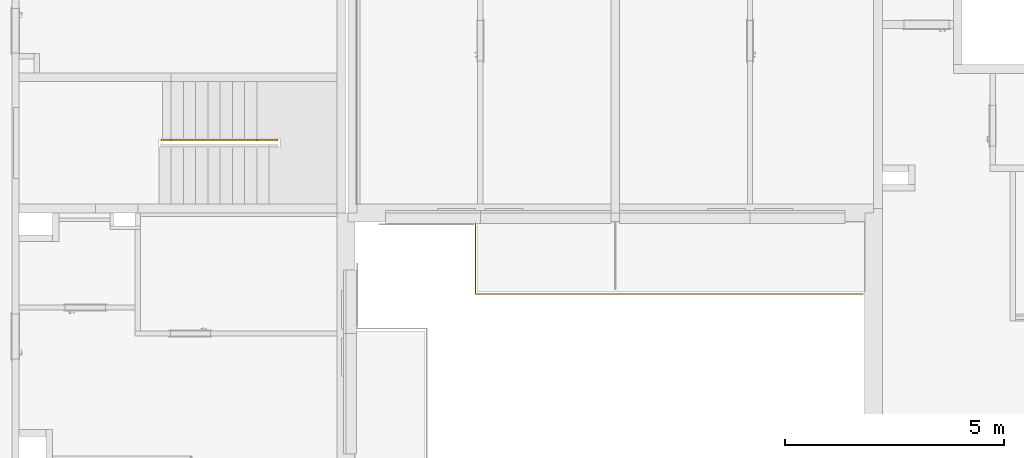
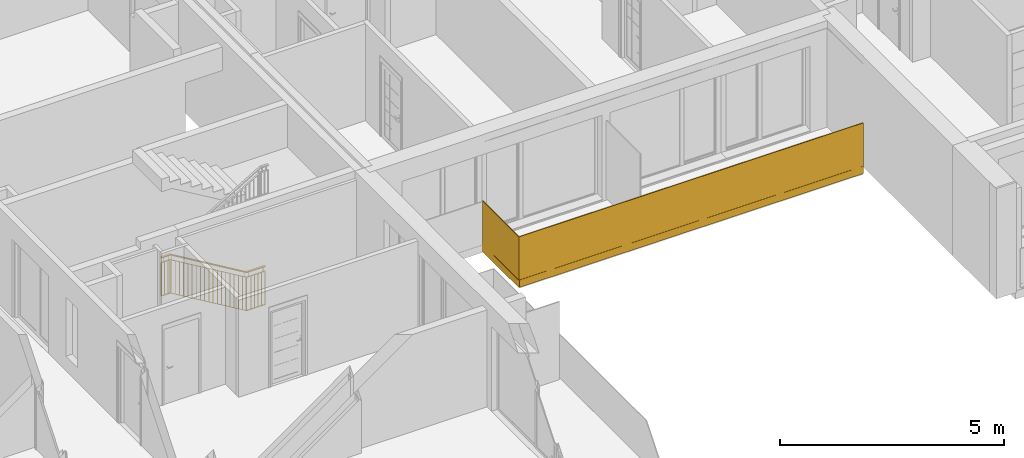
# One storey, part 5 of 66: 2 railings.
"""IFC2X3 building model written with IfcOpenShell, lengths in millimetres."""

from ifc_helpers import new_model, entity, si_unit, converted_unit, derived_unit, money_unit, direction, frame, origin_with_axes, place, context, subcontext, project, spatial, faceted_brep, material, material_list, type_object, element, save


model = new_model("IFC2X3")

# Units and contexts
model_context = context("Model", 3, precision=0.01, world=origin_with_axes(), true_north=direction((0.34421633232, 0.938890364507)))
body_context = subcontext(model_context, "Body", "Model", "MODEL_VIEW")
ifc_project = project(units=[si_unit("LENGTHUNIT", "METRE", prefix="MILLI"), si_unit("AREAUNIT", "SQUARE_METRE"), si_unit("VOLUMEUNIT", "CUBIC_METRE"), converted_unit("PLANEANGLEUNIT", "DEGREE", entity("IfcPlaneAngleMeasure", 0.0174532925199), si_unit("PLANEANGLEUNIT", "RADIAN"), dimensions=[0, 0, 0, 0, 0, 0, 0]), si_unit("SOLIDANGLEUNIT", "STERADIAN"), money_unit("USD"), converted_unit("TIMEUNIT", "Year", entity("IfcTimeMeasure", 31556926.0), si_unit("TIMEUNIT", "SECOND"), dimensions=[0, 0, 1, 0, 0, 0, 0]), si_unit("MASSUNIT", "GRAM", prefix="KILO"), si_unit("THERMODYNAMICTEMPERATUREUNIT", "DEGREE_CELSIUS"), si_unit("LUMINOUSINTENSITYUNIT", "LUMEN"), si_unit("ENERGYUNIT", "JOULE", prefix="MEGA"), derived_unit("THERMALCONDUCTANCEUNIT", [(si_unit("POWERUNIT", "WATT"), 1), (si_unit("LENGTHUNIT", "METRE"), -1), (si_unit("THERMODYNAMICTEMPERATUREUNIT", "KELVIN"), -1)]), derived_unit("SPECIFICHEATCAPACITYUNIT", [(si_unit("ENERGYUNIT", "JOULE"), 1), (si_unit("MASSUNIT", "GRAM", prefix="KILO"), -1), (si_unit("THERMODYNAMICTEMPERATUREUNIT", "KELVIN"), -1)]), derived_unit("MASSDENSITYUNIT", [(si_unit("MASSUNIT", "GRAM", prefix="KILO"), 1), (si_unit("VOLUMEUNIT", "CUBIC_METRE"), -1)])], contexts=[model_context])

# Site, building, storey
site_placement = place(None, origin_with_axes())
site = spatial("IfcSite", under=ifc_project, at=site_placement, Name="USTRONIE MORSKIE", CompositionType="ELEMENT")
building_placement = place(site_placement, origin_with_axes())
building = spatial("IfcBuilding", under=site, at=building_placement, Name="Budynek", CompositionType="ELEMENT")
storey_placement = place(building_placement, frame((0.0, 0.0, 10000.0), z_axis=(0.0, 0.0, 1.0), x_axis=(1.0, 0.0, 0.0)))
storey = spatial("IfcBuildingStorey", under=building, at=storey_placement, Name="PIĘTRO 3", CompositionType="ELEMENT", Elevation=10000.0)

# Railings
ifc_material_1 = material(Name="Szkło struktualne")
ifc_material_2 = material(Name="Profile aluminiowe")
ifc_material_list_1 = material_list([ifc_material_1, ifc_material_2, ifc_material_1, ifc_material_2])
railing_type = type_object("IfcRailingType", Name="Typ balustrady", PredefinedType="NOTDEFINED")
railing_1_placement = place(storey_placement, frame((379016.201289, 725001.198359, 0.0), z_axis=(0.0, 0.0, 1.0), x_axis=(1.0, 0.0, 0.0)))
element("IfcRailing", 1, at=railing_1_placement, inside=storey, type_object=railing_type, material=ifc_material_list_1, Name="BL1", PredefinedType="NOTDEFINED", context=body_context, shape_type="Brep", body=[
    faceted_brep([(-29.9999996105, -59.9999997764, -300.00000039), (-29.9999996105, -59.9999997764, 1069.99999972), (-8898.26101931, -59.9999997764, 1069.99999972), (-8898.26101931, -59.9999997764, -300.00000039), (-29.9999996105, -40.0000002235, 1069.99999972), (-29.9999996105, -40.0000002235, -300.00000039), (-8878.26101976, -40.0000002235, 1069.99999972), (-8878.26101976, -40.0000002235, -300.00000039)], [[[0, 1, 2, 3]], [[4, 1, 0, 5]], [[2, 1, 4, 6]], [[3, 2, 6, 7]], [[5, 0, 3, 7]], [[6, 4, 5, 7]]]),
    faceted_brep([(-8888.26101984, -35.0, -105.0), (-30.0, -35.0, -105.0), (-30.0, -35.0, -305.0), (-8888.26101984, -35.0, -305.0), (-8888.26101984, -40.0, -105.0), (-30.0, -40.0, -105.0), (-30.0, -40.0, -300.0), (-30.0, -59.9999999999, -300.0), (-30.0, -59.9999999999, -105.0), (-30.0, -64.9999999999, -105.0), (-30.0, -64.9999999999, -305.0), (-8888.26101984, -64.9999999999, -305.0), (-8888.26101984, -64.9999999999, -105.0), (-8888.26101984, -59.9999999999, -105.0), (-8888.26101984, -59.9999999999, -300.0), (-8888.26101984, -40.0, -300.0)], [[[0, 1, 2, 3]], [[1, 0, 4, 5]], [[6, 7, 8, 9, 10, 2, 1, 5]], [[10, 11, 3, 2]], [[11, 12, 13, 14, 15, 4, 0, 3]], [[15, 6, 5, 4]], [[7, 6, 15, 14]], [[8, 7, 14, 13]], [[9, 8, 13, 12]], [[11, 10, 9, 12]]]),
    faceted_brep([(-8898.26101961, -60.0000001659, -300.00000039), (-8898.26101961, -60.0000001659, 1069.99999972), (-8898.26101961, 1570.00067773, 1069.99999972), (-8898.26101961, 1570.00067773, -300.00000039), (-8878.26102006, -40.000000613, 1069.99999972), (-8878.26102006, -40.000000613, -300.00000039), (-8878.26102006, 1570.00067773, 1069.99999972), (-8878.26102006, 1570.00067773, -300.00000039)], [[[0, 1, 2, 3]], [[4, 1, 0, 5]], [[2, 1, 4, 6]], [[3, 2, 6, 7]], [[5, 0, 3, 7]], [[6, 4, 5, 7]]]),
    faceted_brep([(-8873.26101984, 1570.00067759, -105.0), (-8873.26101984, -50.0, -105.0), (-8873.26101984, -50.0, -305.0), (-8873.26101984, 1570.00067759, -305.0), (-8878.26101984, 1570.00067759, -105.0), (-8878.26101984, -50.0, -105.0), (-8878.26101984, -50.0, -300.0), (-8898.26101984, -50.0, -300.0), (-8898.26101984, -50.0, -105.0), (-8903.26101984, -50.0, -105.0), (-8903.26101984, -50.0, -305.0), (-8903.26101984, 1570.00067759, -305.0), (-8903.26101984, 1570.00067759, -105.0), (-8898.26101984, 1570.00067759, -105.0), (-8898.26101984, 1570.00067759, -300.0), (-8878.26101984, 1570.00067759, -300.0)], [[[0, 1, 2, 3]], [[1, 0, 4, 5]], [[6, 7, 8, 9, 10, 2, 1, 5]], [[10, 11, 3, 2]], [[11, 12, 13, 14, 15, 4, 0, 3]], [[15, 6, 5, 4]], [[7, 6, 15, 14]], [[8, 7, 14, 13]], [[9, 8, 13, 12]], [[11, 10, 9, 12]]]),
])
ifc_material_3 = material(Name="Stal konstrukcyjna")
ifc_material_4 = material(Name="Stal nierdzewna")
ifc_material_list_2 = material_list([ifc_material_3, ifc_material_3, ifc_material_3, ifc_material_3, ifc_material_4, ifc_material_4, ifc_material_4, ifc_material_3, ifc_material_3, ifc_material_4, ifc_material_4, ifc_material_4, ifc_material_3, ifc_material_3, ifc_material_3, ifc_material_3, ifc_material_3, ifc_material_3, ifc_material_3, ifc_material_3, ifc_material_3, ifc_material_3, ifc_material_3, ifc_material_3, ifc_material_3, ifc_material_3, ifc_material_3, ifc_material_3, ifc_material_3, ifc_material_3, ifc_material_4, ifc_material_4, ifc_material_4, ifc_material_3, ifc_material_3, ifc_material_3, ifc_material_3, ifc_material_3])
railing_2_placement = place(storey_placement, frame((362896.181789, 728501.199036, -1167.0), z_axis=(0.0, 0.0, 1.0), x_axis=(1.0, 0.0, 0.0)))
element("IfcRailing", 2, at=railing_2_placement, inside=storey, type_object=railing_type, material=ifc_material_list_2, Name="BL1", PredefinedType="NOTDEFINED", context=body_context, shape_type="Brep", body=[
    faceted_brep([(59.9999968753, -45.0000006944, 1016.66666667), (59.9999982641, -25.0000006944, 1016.66666667), (59.9999982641, -25.0000006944, 1916.66666667), (59.9999968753, -45.0000006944, 1916.66666667), (39.9999968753, -44.9999993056, 1016.66666667), (39.9999982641, -24.9999993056, 1016.66666667), (54.9999972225, -40.0000003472, 1016.66666667), (54.9999979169, -30.0000003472, 1016.66666667), (44.9999979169, -29.9999996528, 1016.66666667), (44.9999972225, -39.9999996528, 1016.66666667), (39.9999982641, -24.9999993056, 1916.66666667), (39.9999968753, -44.9999993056, 1916.66666667), (54.9999972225, -40.0000003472, 1916.66666667), (44.9999972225, -39.9999996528, 1916.66666667), (44.9999979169, -29.9999996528, 1916.66666667), (54.9999979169, -30.0000003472, 1916.66666667)], [[[0, 1, 2, 3]], [[0, 4, 5, 1], [6, 7, 8, 9]], [[1, 5, 10, 2]], [[3, 2, 10, 11], [12, 13, 14, 15]], [[4, 0, 3, 11]], [[5, 4, 11, 10]], [[7, 6, 12, 15]], [[8, 7, 15, 14]], [[9, 8, 14, 13]], [[6, 9, 13, 12]]]),
    faceted_brep([(291.739128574, -45.000016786, 1013.91570779), (291.739129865, -25.0000167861, 1013.91570743), (291.739129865, -25.0000167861, 1913.91570743), (291.739128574, -45.000016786, 1913.91570779), (271.739128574, -45.0000153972, 1019.4176259), (271.739129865, -25.0000153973, 1019.41762554), (286.739128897, -40.0000164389, 1015.29118723), (286.739129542, -30.0000164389, 1015.29118705), (276.739129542, -30.0000157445, 1018.04214611), (276.739128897, -40.0000157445, 1018.04214628), (271.739129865, -25.0000153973, 1919.41762554), (271.739128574, -45.0000153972, 1919.4176259), (286.739128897, -40.0000164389, 1915.29118723), (276.739128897, -40.0000157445, 1918.04214628), (276.739129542, -30.0000157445, 1918.04214611), (286.739129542, -30.0000164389, 1915.29118705)], [[[0, 1, 2, 3]], [[0, 4, 5, 1], [6, 7, 8, 9]], [[1, 5, 10, 2]], [[3, 2, 10, 11], [12, 13, 14, 15]], [[4, 0, 3, 11]], [[5, 4, 11, 10]], [[7, 6, 12, 15]], [[8, 7, 15, 14]], [[9, 8, 14, 13]], [[6, 9, 13, 12]]]),
    faceted_brep([(2251.73913048, -45.0000160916, -152.750958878), (2251.73913039, -25.0000160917, -152.750959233), (2251.73913039, -25.0000160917, 747.249040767), (2251.73913048, -45.0000160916, 747.249041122), (2231.73913048, -45.0000160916, -147.249040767), (2231.73913039, -25.0000160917, -147.249041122), (2246.73913046, -40.0000160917, -151.375479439), (2246.73913041, -30.0000160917, -151.375479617), (2236.73913041, -30.0000160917, -148.624520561), (2236.73913046, -40.0000160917, -148.624520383), (2231.73913039, -25.0000160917, 752.750958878), (2231.73913048, -45.0000160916, 752.750959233), (2246.73913046, -40.0000160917, 748.624520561), (2236.73913046, -40.0000160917, 751.375479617), (2236.73913041, -30.0000160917, 751.375479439), (2246.73913041, -30.0000160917, 748.624520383)], [[[0, 1, 2, 3]], [[0, 4, 5, 1], [6, 7, 8, 9]], [[1, 5, 10, 2]], [[3, 2, 10, 11], [12, 13, 14, 15]], [[4, 0, 3, 11]], [[5, 4, 11, 10]], [[7, 6, 12, 15]], [[8, 7, 15, 14]], [[9, 8, 14, 13]], [[6, 9, 13, 12]]]),
    faceted_brep([(2726.73913043, -55.0000160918, -150.0), (2726.73913043, -15.0000160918, -150.0), (2726.73913043, -15.0000160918, 750.0), (2726.73913043, -55.0000160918, 750.0), (2716.73913043, -55.0000160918, -150.0), (2716.73913043, -15.0000160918, -150.0), (2722.23913043, -50.5000160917, -150.0), (2722.23913043, -19.5000160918, -150.0), (2721.23913043, -19.5000160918, -150.0), (2721.23913043, -50.5000160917, -150.0), (2716.73913043, -15.0000160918, 750.0), (2716.73913043, -55.0000160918, 750.0), (2722.23913043, -50.5000160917, 750.0), (2721.23913043, -50.5000160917, 750.0), (2721.23913043, -19.5000160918, 750.0), (2722.23913043, -19.5000160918, 750.0)], [[[0, 1, 2, 3]], [[0, 4, 5, 1], [6, 7, 8, 9]], [[1, 5, 10, 2]], [[3, 2, 10, 11], [12, 13, 14, 15]], [[4, 0, 3, 11]], [[5, 4, 11, 10]], [[7, 6, 12, 15]], [[8, 7, 15, 14]], [[9, 8, 14, 13]], [[6, 9, 13, 12]]]),
    faceted_brep([(49.9999958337, -59.9999999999, 2066.66666667), (49.9999958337, -59.9999999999, 2041.66666667), (274.861729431, -60.0000158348, 2041.66666667), (281.739127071, -60.0000160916, 2066.66666667), (49.9999993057, -9.99999999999, 2066.66666667), (49.9999993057, -9.99999999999, 2041.66666667), (49.9999982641, -25.0, 2041.66666667), (49.9999982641, -25.0, 2046.66666667), (49.9999968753, -45.0, 2046.66666667), (49.9999968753, -45.0, 2041.66666667), (274.861729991, -45.0000158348, 2041.66666667), (276.237209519, -45.0000158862, 2046.66666667), (276.237210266, -25.0000158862, 2046.66666667), (274.861730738, -25.0000158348, 2041.66666667), (274.861731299, -10.0000158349, 2041.66666667), (281.739128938, -10.0000160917, 2066.66666667)], [[[0, 1, 2, 3]], [[0, 4, 5, 6, 7, 8, 9, 1]], [[1, 9, 10, 2]], [[3, 2, 10, 11, 12, 13, 14, 15]], [[4, 0, 3, 15]], [[5, 4, 15, 14]], [[6, 5, 14, 13]], [[7, 6, 13, 12]], [[8, 7, 12, 11]], [[9, 8, 11, 10]]]),
    faceted_brep([(49.9999968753, -45.0, 2041.66666667), (49.9999982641, -25.0, 2041.66666667), (274.861730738, -25.0000158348, 2041.66666667), (274.861729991, -45.0000158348, 2041.66666667), (49.9999968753, -45.0, 2046.66666667), (49.9999982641, -25.0, 2046.66666667), (276.237210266, -25.0000158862, 2046.66666667), (276.237209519, -45.0000158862, 2046.66666667)], [[[0, 1, 2, 3]], [[0, 4, 5, 1]], [[1, 5, 6, 2]], [[3, 2, 6, 7]], [[4, 0, 3, 7]], [[5, 4, 7, 6]]]),
    faceted_brep([(102.499996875, -45.0000036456, 1921.66666667), (102.499998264, -25.0000036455, 1921.66666667), (102.499998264, -25.0000036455, 2041.66666667), (102.499996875, -45.0000036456, 2041.66666667), (97.4999968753, -45.0000032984, 1921.66666667), (97.4999982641, -25.0000032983, 1921.66666667), (97.4999982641, -25.0000032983, 2041.66666667), (97.4999968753, -45.0000032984, 2041.66666667)], [[[0, 1, 2, 3]], [[0, 4, 5, 1]], [[1, 5, 6, 2]], [[3, 2, 6, 7]], [[4, 0, 3, 7]], [[5, 4, 7, 6]]]),
    faceted_brep([(234.23912731, -45.0000127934, 1921.66666667), (234.239128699, -25.0000127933, 1921.66666667), (234.239128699, -25.0000127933, 2041.66666667), (234.23912731, -45.0000127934, 2041.66666667), (229.23912731, -45.0000124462, 1921.66666667), (229.239128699, -25.0000124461, 1921.66666667), (229.239128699, -25.0000124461, 2041.66666667), (229.23912731, -45.0000124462, 2041.66666667)], [[[0, 1, 2, 3]], [[0, 4, 5, 1]], [[1, 5, 6, 2]], [[3, 2, 6, 7]], [[4, 0, 3, 7]], [[5, 4, 7, 6]]]),
    faceted_brep([(49.9999961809, -54.9999999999, 1916.66666667), (49.9999961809, -54.9999999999, 1911.66666667), (280.36364773, -55.0000160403, 1911.66666667), (281.739127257, -55.0000160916, 1916.66666667), (49.9999989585, -15.0, 1916.66666667), (49.9999989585, -15.0, 1911.66666667), (280.363649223, -15.0000160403, 1911.66666667), (281.739128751, -15.0000160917, 1916.66666667)], [[[0, 1, 2, 3]], [[0, 4, 5, 1]], [[1, 5, 6, 2]], [[3, 2, 6, 7]], [[4, 0, 3, 7]], [[5, 4, 7, 6]]]),
    faceted_brep([(49.9999961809, -54.9999999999, 1009.16666667), (49.9999961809, -54.9999999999, 1004.16666667), (281.051387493, -55.0000160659, 1004.16666667), (282.426867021, -55.0000161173, 1009.16666667), (49.9999989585, -15.0, 1009.16666667), (49.9999989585, -15.0, 1004.16666667), (281.051388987, -15.000016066, 1004.16666667), (282.426868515, -15.0000161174, 1009.16666667)], [[[0, 1, 2, 3]], [[0, 4, 5, 1]], [[1, 5, 6, 2]], [[3, 2, 6, 7]], [[4, 0, 3, 7]], [[5, 4, 7, 6]]]),
    faceted_brep([(145.217388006, -47.5000066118, 1016.66666667), (145.217389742, -22.5000066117, 1016.66666667), (145.217389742, -22.5000066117, 1906.66666667), (145.217388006, -47.5000066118, 1906.66666667), (135.217388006, -47.5000059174, 1016.66666667), (135.217389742, -22.5000059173, 1016.66666667), (135.217389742, -22.5000059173, 1906.66666667), (135.217388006, -47.5000059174, 1906.66666667)], [[[0, 1, 2, 3]], [[0, 4, 5, 1]], [[1, 5, 6, 2]], [[3, 2, 6, 7]], [[4, 0, 3, 7]], [[5, 4, 7, 6]]]),
    faceted_brep([(235.43477931, -47.5000128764, 1016.66666667), (235.434781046, -22.5000128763, 1016.66666667), (235.434781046, -22.5000128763, 1906.66666667), (235.43477931, -47.5000128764, 1906.66666667), (225.43477931, -47.500012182, 1016.66666667), (225.434781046, -22.5000121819, 1016.66666667), (225.434781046, -22.5000121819, 1906.66666667), (225.43477931, -47.500012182, 1906.66666667)], [[[0, 1, 2, 3]], [[0, 4, 5, 1]], [[1, 5, 6, 2]], [[3, 2, 6, 7]], [[4, 0, 3, 7]], [[5, 4, 7, 6]]]),
    faceted_brep([(281.739129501, -60.0000160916, 2066.66666667), (274.861731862, -60.0000158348, 2041.66666667), (2234.8617328, -60.0000160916, 875.0), (2241.73913043, -60.0000160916, 900.0), (281.739131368, -10.0000160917, 2066.66666667), (274.861733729, -10.0000158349, 2041.66666667), (274.861733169, -25.0000158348, 2041.66666667), (276.237212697, -25.0000158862, 2046.66666667), (276.23721195, -45.0000158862, 2046.66666667), (274.861732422, -45.0000158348, 2041.66666667), (2234.8617328, -45.0000160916, 875.0), (2236.23721232, -45.0000160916, 880.0), (2236.23721232, -25.0000160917, 880.0), (2234.8617328, -25.0000160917, 875.0), (2234.8617328, -10.0000160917, 875.0), (2241.73913043, -10.0000160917, 900.0)], [[[0, 1, 2, 3]], [[0, 4, 5, 6, 7, 8, 9, 1]], [[1, 9, 10, 2]], [[3, 2, 10, 11, 12, 13, 14, 15]], [[4, 0, 3]], [[5, 4, 15, 14]], [[6, 5, 14, 13]], [[7, 6, 13, 12]], [[8, 7, 12, 11]], [[9, 8, 11, 10]], [[4, 3, 15]]]),
    faceted_brep([(274.861732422, -45.0000158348, 2041.66666667), (274.861733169, -25.0000158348, 2041.66666667), (2234.8617328, -25.0000160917, 875.0), (2234.8617328, -45.0000160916, 875.0), (276.23721195, -45.0000158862, 2046.66666667), (276.237212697, -25.0000158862, 2046.66666667), (2236.23721232, -25.0000160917, 880.0), (2236.23721232, -45.0000160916, 880.0)], [[[0, 1, 2, 3]], [[0, 4, 5, 1]], [[1, 5, 6, 2]], [[3, 2, 6, 7]], [[4, 0, 3, 7]], [[5, 4, 7, 6]]]),
    faceted_brep([(327.203774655, -45.0000160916, 1891.99878461), (327.203774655, -25.0000160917, 1891.99878461), (327.203774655, -25.0000160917, 2011.99878461), (327.203774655, -45.0000160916, 2011.99878461), (322.203774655, -45.0000160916, 1891.99878461), (322.203774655, -25.0000160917, 1891.99878461), (322.203774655, -25.0000160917, 2013.48687985), (324.703774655, -25.0000160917, 2013.48687985), (324.703774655, -45.0000160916, 2013.48687985), (322.203774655, -45.0000160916, 2013.48687985)], [[[0, 1, 2, 3]], [[0, 4, 5, 1]], [[1, 5, 6, 7, 2]], [[7, 8, 3, 2]], [[4, 0, 3, 8, 9]], [[5, 4, 9, 6]], [[7, 6, 9, 8]]]),
    faceted_brep([(2201.27448621, -45.0000160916, 776.480503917), (2201.27448621, -25.0000160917, 776.480503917), (2201.27448621, -25.0000160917, 896.480503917), (2201.27448621, -45.0000160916, 896.480503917), (2196.27448621, -45.0000160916, 776.480503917), (2196.27448621, -25.0000160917, 776.480503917), (2196.27448621, -25.0000160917, 897.968599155), (2198.77448621, -25.0000160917, 897.968599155), (2198.77448621, -45.0000160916, 897.968599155), (2196.27448621, -45.0000160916, 897.968599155)], [[[0, 1, 2, 3]], [[0, 4, 5, 1]], [[1, 5, 6, 7, 2]], [[7, 8, 3, 2]], [[4, 0, 3, 8, 9]], [[5, 4, 9, 6]], [[7, 6, 9, 8]]]),
    faceted_brep([(281.739129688, -55.0000160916, 1916.66666667), (280.36365016, -55.0000160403, 1911.66666667), (2240.36365091, -55.0000160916, 745.0), (2241.73913043, -55.0000160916, 750.0), (281.739131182, -15.0000160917, 1916.66666667), (280.363651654, -15.0000160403, 1911.66666667), (2240.36365091, -15.0000160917, 745.0), (2241.73913043, -15.0000160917, 750.0)], [[[0, 1, 2, 3]], [[0, 4, 5, 1]], [[1, 5, 6, 2]], [[3, 2, 6, 7]], [[4, 0, 3, 7]], [[5, 4, 7, 6]]]),
    faceted_brep([(282.426869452, -55.0000161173, 1009.16666667), (281.051389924, -55.0000160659, 1004.16666667), (2241.05139067, -55.0000160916, -162.5), (2242.4268702, -55.0000160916, -157.5), (282.426870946, -15.0000161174, 1009.16666667), (281.051391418, -15.000016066, 1004.16666667), (2241.05139067, -15.0000160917, -162.5), (2242.4268702, -15.0000160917, -157.5)], [[[0, 1, 2, 3]], [[0, 4, 5, 1]], [[1, 5, 6, 2]], [[3, 2, 6, 7]], [[4, 0, 3, 7]], [[5, 4, 7, 6]]]),
    faceted_brep([(307.536231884, -47.5000160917, 1001.31124914), (307.536231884, -22.5000160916, 1001.31124914), (307.536231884, -22.5000160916, 1891.31124914), (307.536231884, -47.5000160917, 1891.31124914), (297.536231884, -47.5000160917, 1007.26363009), (297.536231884, -22.5000160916, 1007.26363009), (297.536231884, -22.5000160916, 1897.26363009), (297.536231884, -47.5000160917, 1897.26363009)], [[[0, 1, 2, 3]], [[0, 4, 5, 1]], [[1, 5, 6, 2]], [[3, 2, 6, 7]], [[4, 0, 3, 7]], [[5, 4, 7, 6]]]),
    faceted_brep([(413.369565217, -50.0000160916, 938.315217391), (413.369565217, -20.0000160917, 938.315217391), (413.369565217, -20.0000160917, 1828.31521739), (413.369565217, -50.0000160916, 1828.31521739), (408.369565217, -50.0000160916, 941.291407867), (408.369565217, -20.0000160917, 941.291407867), (408.369565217, -20.0000160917, 1831.29140787), (408.369565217, -50.0000160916, 1831.29140787)], [[[0, 1, 2, 3]], [[0, 4, 5, 1]], [[1, 5, 6, 2]], [[3, 2, 6, 7]], [[4, 0, 3, 7]], [[5, 4, 7, 6]]]),
    faceted_brep([(524.202898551, -47.5000160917, 872.342995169), (524.202898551, -22.5000160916, 872.342995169), (524.202898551, -22.5000160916, 1762.34299517), (524.202898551, -47.5000160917, 1762.34299517), (514.202898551, -47.5000160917, 878.295376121), (514.202898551, -22.5000160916, 878.295376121), (514.202898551, -22.5000160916, 1768.29537612), (514.202898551, -47.5000160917, 1768.29537612)], [[[0, 1, 2, 3]], [[0, 4, 5, 1]], [[1, 5, 6, 2]], [[3, 2, 6, 7]], [[4, 0, 3, 7]], [[5, 4, 7, 6]]]),
    faceted_brep([(632.536231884, -47.5000160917, 807.858868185), (632.536231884, -22.5000160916, 807.858868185), (632.536231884, -22.5000160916, 1697.85886818), (632.536231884, -47.5000160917, 1697.85886818), (622.536231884, -47.5000160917, 813.811249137), (622.536231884, -22.5000160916, 813.811249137), (622.536231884, -22.5000160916, 1703.81124914), (622.536231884, -47.5000160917, 1703.81124914)], [[[0, 1, 2, 3]], [[0, 4, 5, 1]], [[1, 5, 6, 2]], [[3, 2, 6, 7]], [[4, 0, 3, 7]], [[5, 4, 7, 6]]]),
    faceted_brep([(740.869565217, -47.5000160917, 743.374741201), (740.869565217, -22.5000160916, 743.374741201), (740.869565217, -22.5000160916, 1633.3747412), (740.869565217, -47.5000160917, 1633.3747412), (730.869565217, -47.5000160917, 749.327122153), (730.869565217, -22.5000160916, 749.327122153), (730.869565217, -22.5000160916, 1639.32712215), (730.869565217, -47.5000160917, 1639.32712215)], [[[0, 1, 2, 3]], [[0, 4, 5, 1]], [[1, 5, 6, 2]], [[3, 2, 6, 7]], [[4, 0, 3, 7]], [[5, 4, 7, 6]]]),
    faceted_brep([(849.202898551, -47.5000160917, 678.890614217), (849.202898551, -22.5000160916, 678.890614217), (849.202898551, -22.5000160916, 1568.89061422), (849.202898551, -47.5000160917, 1568.89061422), (839.202898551, -47.5000160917, 684.842995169), (839.202898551, -22.5000160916, 684.842995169), (839.202898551, -22.5000160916, 1574.84299517), (839.202898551, -47.5000160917, 1574.84299517)], [[[0, 1, 2, 3]], [[0, 4, 5, 1]], [[1, 5, 6, 2]], [[3, 2, 6, 7]], [[4, 0, 3, 7]], [[5, 4, 7, 6]]]),
    faceted_brep([(957.536231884, -47.5000160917, 614.406487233), (957.536231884, -22.5000160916, 614.406487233), (957.536231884, -22.5000160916, 1504.40648723), (957.536231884, -47.5000160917, 1504.40648723), (947.536231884, -47.5000160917, 620.358868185), (947.536231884, -22.5000160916, 620.358868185), (947.536231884, -22.5000160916, 1510.35886818), (947.536231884, -47.5000160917, 1510.35886818)], [[[0, 1, 2, 3]], [[0, 4, 5, 1]], [[1, 5, 6, 2]], [[3, 2, 6, 7]], [[4, 0, 3, 7]], [[5, 4, 7, 6]]]),
    faceted_brep([(1063.36956522, -50.0000160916, 551.410455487), (1063.36956522, -20.0000160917, 551.410455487), (1063.36956522, -20.0000160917, 1441.41045549), (1063.36956522, -50.0000160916, 1441.41045549), (1058.36956522, -50.0000160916, 554.386645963), (1058.36956522, -20.0000160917, 554.386645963), (1058.36956522, -20.0000160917, 1444.38664596), (1058.36956522, -50.0000160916, 1444.38664596)], [[[0, 1, 2, 3]], [[0, 4, 5, 1]], [[1, 5, 6, 2]], [[3, 2, 6, 7]], [[4, 0, 3, 7]], [[5, 4, 7, 6]]]),
    faceted_brep([(1174.20289855, -47.5000160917, 485.438233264), (1174.20289855, -22.5000160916, 485.438233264), (1174.20289855, -22.5000160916, 1375.43823326), (1174.20289855, -47.5000160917, 1375.43823326), (1164.20289855, -47.5000160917, 491.390614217), (1164.20289855, -22.5000160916, 491.390614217), (1164.20289855, -22.5000160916, 1381.39061422), (1164.20289855, -47.5000160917, 1381.39061422)], [[[0, 1, 2, 3]], [[0, 4, 5, 1]], [[1, 5, 6, 2]], [[3, 2, 6, 7]], [[4, 0, 3, 7]], [[5, 4, 7, 6]]]),
    faceted_brep([(1282.53623188, -47.5000160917, 420.95410628), (1282.53623188, -22.5000160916, 420.95410628), (1282.53623188, -22.5000160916, 1310.95410628), (1282.53623188, -47.5000160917, 1310.95410628), (1272.53623188, -47.5000160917, 426.906487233), (1272.53623188, -22.5000160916, 426.906487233), (1272.53623188, -22.5000160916, 1316.90648723), (1272.53623188, -47.5000160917, 1316.90648723)], [[[0, 1, 2, 3]], [[0, 4, 5, 1]], [[1, 5, 6, 2]], [[3, 2, 6, 7]], [[4, 0, 3, 7]], [[5, 4, 7, 6]]]),
    faceted_brep([(1390.86956522, -47.5000160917, 356.469979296), (1390.86956522, -22.5000160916, 356.469979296), (1390.86956522, -22.5000160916, 1246.4699793), (1390.86956522, -47.5000160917, 1246.4699793), (1380.86956522, -47.5000160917, 362.422360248), (1380.86956522, -22.5000160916, 362.422360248), (1380.86956522, -22.5000160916, 1252.42236025), (1380.86956522, -47.5000160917, 1252.42236025)], [[[0, 1, 2, 3]], [[0, 4, 5, 1]], [[1, 5, 6, 2]], [[3, 2, 6, 7]], [[4, 0, 3, 7]], [[5, 4, 7, 6]]]),
    faceted_brep([(1499.20289855, -47.5000160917, 291.985852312), (1499.20289855, -22.5000160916, 291.985852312), (1499.20289855, -22.5000160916, 1181.98585231), (1499.20289855, -47.5000160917, 1181.98585231), (1489.20289855, -47.5000160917, 297.938233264), (1489.20289855, -22.5000160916, 297.938233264), (1489.20289855, -22.5000160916, 1187.93823326), (1489.20289855, -47.5000160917, 1187.93823326)], [[[0, 1, 2, 3]], [[0, 4, 5, 1]], [[1, 5, 6, 2]], [[3, 2, 6, 7]], [[4, 0, 3, 7]], [[5, 4, 7, 6]]]),
    faceted_brep([(1607.53623188, -47.5000160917, 227.501725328), (1607.53623188, -22.5000160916, 227.501725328), (1607.53623188, -22.5000160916, 1117.50172533), (1607.53623188, -47.5000160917, 1117.50172533), (1597.53623188, -47.5000160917, 233.45410628), (1597.53623188, -22.5000160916, 233.45410628), (1597.53623188, -22.5000160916, 1123.45410628), (1597.53623188, -47.5000160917, 1123.45410628)], [[[0, 1, 2, 3]], [[0, 4, 5, 1]], [[1, 5, 6, 2]], [[3, 2, 6, 7]], [[4, 0, 3, 7]], [[5, 4, 7, 6]]]),
    faceted_brep([(1713.36956522, -50.0000160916, 164.505693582), (1713.36956522, -20.0000160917, 164.505693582), (1713.36956522, -20.0000160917, 1054.50569358), (1713.36956522, -50.0000160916, 1054.50569358), (1708.36956522, -50.0000160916, 167.481884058), (1708.36956522, -20.0000160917, 167.481884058), (1708.36956522, -20.0000160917, 1057.48188406), (1708.36956522, -50.0000160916, 1057.48188406)], [[[0, 1, 2, 3]], [[0, 4, 5, 1]], [[1, 5, 6, 2]], [[3, 2, 6, 7]], [[4, 0, 3, 7]], [[5, 4, 7, 6]]]),
    faceted_brep([(1824.20289855, -47.5000160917, 98.5334713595), (1824.20289855, -22.5000160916, 98.5334713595), (1824.20289855, -22.5000160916, 988.53347136), (1824.20289855, -47.5000160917, 988.53347136), (1814.20289855, -47.5000160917, 104.485852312), (1814.20289855, -22.5000160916, 104.485852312), (1814.20289855, -22.5000160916, 994.485852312), (1814.20289855, -47.5000160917, 994.485852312)], [[[0, 1, 2, 3]], [[0, 4, 5, 1]], [[1, 5, 6, 2]], [[3, 2, 6, 7]], [[4, 0, 3, 7]], [[5, 4, 7, 6]]]),
    faceted_brep([(1932.53623188, -47.5000160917, 34.0493443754), (1932.53623188, -22.5000160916, 34.0493443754), (1932.53623188, -22.5000160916, 924.049344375), (1932.53623188, -47.5000160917, 924.049344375), (1922.53623188, -47.5000160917, 40.0017253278), (1922.53623188, -22.5000160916, 40.0017253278), (1922.53623188, -22.5000160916, 930.001725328), (1922.53623188, -47.5000160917, 930.001725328)], [[[0, 1, 2, 3]], [[0, 4, 5, 1]], [[1, 5, 6, 2]], [[3, 2, 6, 7]], [[4, 0, 3, 7]], [[5, 4, 7, 6]]]),
    faceted_brep([(2040.86956522, -47.5000160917, -30.4347826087), (2040.86956522, -22.5000160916, -30.4347826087), (2040.86956522, -22.5000160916, 859.565217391), (2040.86956522, -47.5000160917, 859.565217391), (2030.86956522, -47.5000160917, -24.4824016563), (2030.86956522, -22.5000160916, -24.4824016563), (2030.86956522, -22.5000160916, 865.517598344), (2030.86956522, -47.5000160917, 865.517598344)], [[[0, 1, 2, 3]], [[0, 4, 5, 1]], [[1, 5, 6, 2]], [[3, 2, 6, 7]], [[4, 0, 3, 7]], [[5, 4, 7, 6]]]),
    faceted_brep([(2149.20289855, -47.5000160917, -94.9189095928), (2149.20289855, -22.5000160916, -94.9189095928), (2149.20289855, -22.5000160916, 795.081090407), (2149.20289855, -47.5000160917, 795.081090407), (2139.20289855, -47.5000160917, -88.9665286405), (2139.20289855, -22.5000160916, -88.9665286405), (2139.20289855, -22.5000160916, 801.03347136), (2139.20289855, -47.5000160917, 801.03347136)], [[[0, 1, 2, 3]], [[0, 4, 5, 1]], [[1, 5, 6, 2]], [[3, 2, 6, 7]], [[4, 0, 3, 7]], [[5, 4, 7, 6]]]),
    faceted_brep([(2241.73913043, -60.0000160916, 900.0), (2234.8617328, -60.0000160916, 875.0), (2721.73913043, -60.0000160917, 875.0), (2721.73913043, -60.0000160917, 900.0), (2241.73913043, -10.0000160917, 900.0), (2234.8617328, -10.0000160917, 875.0), (2234.8617328, -25.0000160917, 875.0), (2236.23721232, -25.0000160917, 880.0), (2236.23721232, -45.0000160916, 880.0), (2234.8617328, -45.0000160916, 875.0), (2721.73913043, -45.0000160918, 875.0), (2721.73913043, -45.0000160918, 880.0), (2721.73913043, -25.0000160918, 880.0), (2721.73913043, -25.0000160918, 875.0), (2721.73913043, -10.0000160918, 875.0), (2721.73913043, -10.0000160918, 900.0)], [[[0, 1, 2, 3]], [[0, 4, 5, 6, 7, 8, 9, 1]], [[1, 9, 10, 2]], [[3, 2, 10, 11, 12, 13, 14, 15]], [[4, 0, 3, 15]], [[5, 4, 15, 14]], [[6, 5, 14, 13]], [[7, 6, 13, 12]], [[8, 7, 12, 11]], [[9, 8, 11, 10]]]),
    faceted_brep([(2234.8617328, -45.0000160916, 875.0), (2234.8617328, -25.0000160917, 875.0), (2721.73913043, -25.0000160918, 875.0), (2721.73913043, -45.0000160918, 875.0), (2236.23721232, -45.0000160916, 880.0), (2236.23721232, -25.0000160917, 880.0), (2721.73913043, -25.0000160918, 880.0), (2721.73913043, -45.0000160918, 880.0)], [[[0, 1, 2, 3]], [[0, 4, 5, 1]], [[1, 5, 6, 2]], [[3, 2, 6, 7]], [[4, 0, 3, 7]], [[5, 4, 7, 6]]]),
    faceted_brep([(2294.23913043, -45.0000160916, 755.0), (2294.23913043, -25.0000160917, 755.0), (2294.23913043, -25.0000160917, 875.0), (2294.23913043, -45.0000160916, 875.0), (2289.23913043, -45.0000160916, 755.0), (2289.23913043, -25.0000160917, 755.0), (2289.23913043, -25.0000160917, 875.0), (2289.23913043, -45.0000160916, 875.0)], [[[0, 1, 2, 3]], [[0, 4, 5, 1]], [[1, 5, 6, 2]], [[3, 2, 6, 7]], [[4, 0, 3, 7]], [[5, 4, 7, 6]]]),
    faceted_brep([(2674.23913043, -45.0000160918, 755.0), (2674.23913043, -25.0000160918, 755.0), (2674.23913043, -25.0000160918, 875.0), (2674.23913043, -45.0000160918, 875.0), (2669.23913043, -45.0000160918, 755.0), (2669.23913043, -25.0000160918, 755.0), (2669.23913043, -25.0000160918, 875.0), (2669.23913043, -45.0000160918, 875.0)], [[[0, 1, 2, 3]], [[0, 4, 5, 1]], [[1, 5, 6, 2]], [[3, 2, 6, 7]], [[4, 0, 3, 7]], [[5, 4, 7, 6]]]),
    faceted_brep([(2241.73913043, -55.0000160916, 750.0), (2240.36365091, -55.0000160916, 745.0), (2721.73913043, -55.0000160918, 745.0), (2721.73913043, -55.0000160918, 750.0), (2241.73913043, -15.0000160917, 750.0), (2240.36365091, -15.0000160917, 745.0), (2721.73913043, -15.0000160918, 745.0), (2721.73913043, -15.0000160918, 750.0)], [[[0, 1, 2, 3]], [[0, 4, 5, 1]], [[1, 5, 6, 2]], [[3, 2, 6, 7]], [[4, 0, 3, 7]], [[5, 4, 7, 6]]]),
    faceted_brep([(2242.4268702, -55.0000160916, -157.5), (2241.05139067, -55.0000160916, -162.5), (2721.73913043, -55.0000160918, -162.5), (2721.73913043, -55.0000160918, -157.5), (2242.4268702, -15.0000160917, -157.5), (2241.05139067, -15.0000160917, -162.5), (2721.73913043, -15.0000160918, -162.5), (2721.73913043, -15.0000160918, -157.5)], [[[0, 1, 2, 3]], [[0, 4, 5, 1]], [[1, 5, 6, 2]], [[3, 2, 6, 7]], [[4, 0, 3, 7]], [[5, 4, 7, 6]]]),
    faceted_brep([(2257.53623188, -47.5000160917, -150.0), (2257.53623188, -22.5000160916, -150.0), (2257.53623188, -22.5000160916, 740.0), (2257.53623188, -47.5000160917, 740.0), (2247.53623188, -47.5000160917, -150.0), (2247.53623188, -22.5000160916, -150.0), (2247.53623188, -22.5000160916, 740.0), (2247.53623188, -47.5000160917, 740.0)], [[[0, 1, 2, 3]], [[0, 4, 5, 1]], [[1, 5, 6, 2]], [[3, 2, 6, 7]], [[4, 0, 3, 7]], [[5, 4, 7, 6]]]),
    faceted_brep([(2363.36956522, -50.0000160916, -150.0), (2363.36956522, -20.0000160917, -150.0), (2363.36956522, -20.0000160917, 740.0), (2363.36956522, -50.0000160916, 740.0), (2358.36956522, -50.0000160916, -150.0), (2358.36956522, -20.0000160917, -150.0), (2358.36956522, -20.0000160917, 740.0), (2358.36956522, -50.0000160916, 740.0)], [[[0, 1, 2, 3]], [[0, 4, 5, 1]], [[1, 5, 6, 2]], [[3, 2, 6, 7]], [[4, 0, 3, 7]], [[5, 4, 7, 6]]]),
    faceted_brep([(2456.08695652, -47.5000160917, -150.0), (2456.08695652, -22.5000160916, -150.0), (2456.08695652, -22.5000160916, 740.0), (2456.08695652, -47.5000160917, 740.0), (2446.08695652, -47.5000160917, -150.0), (2446.08695652, -22.5000160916, -150.0), (2446.08695652, -22.5000160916, 740.0), (2446.08695652, -47.5000160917, 740.0)], [[[0, 1, 2, 3]], [[0, 4, 5, 1]], [[1, 5, 6, 2]], [[3, 2, 6, 7]], [[4, 0, 3, 7]], [[5, 4, 7, 6]]]),
    faceted_brep([(2546.30434783, -47.5000160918, -150.0), (2546.30434783, -22.5000160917, -150.0), (2546.30434783, -22.5000160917, 740.0), (2546.30434783, -47.5000160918, 740.0), (2536.30434783, -47.5000160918, -150.0), (2536.30434783, -22.5000160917, -150.0), (2536.30434783, -22.5000160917, 740.0), (2536.30434783, -47.5000160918, 740.0)], [[[0, 1, 2, 3]], [[0, 4, 5, 1]], [[1, 5, 6, 2]], [[3, 2, 6, 7]], [[4, 0, 3, 7]], [[5, 4, 7, 6]]]),
    faceted_brep([(2636.52173913, -47.5000160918, -150.0), (2636.52173913, -22.5000160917, -150.0), (2636.52173913, -22.5000160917, 740.0), (2636.52173913, -47.5000160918, 740.0), (2626.52173913, -47.5000160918, -150.0), (2626.52173913, -22.5000160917, -150.0), (2626.52173913, -22.5000160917, 740.0), (2626.52173913, -47.5000160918, 740.0)], [[[0, 1, 2, 3]], [[0, 4, 5, 1]], [[1, 5, 6, 2]], [[3, 2, 6, 7]], [[4, 0, 3, 7]], [[5, 4, 7, 6]]]),
])

save(model, "model.ifc")
